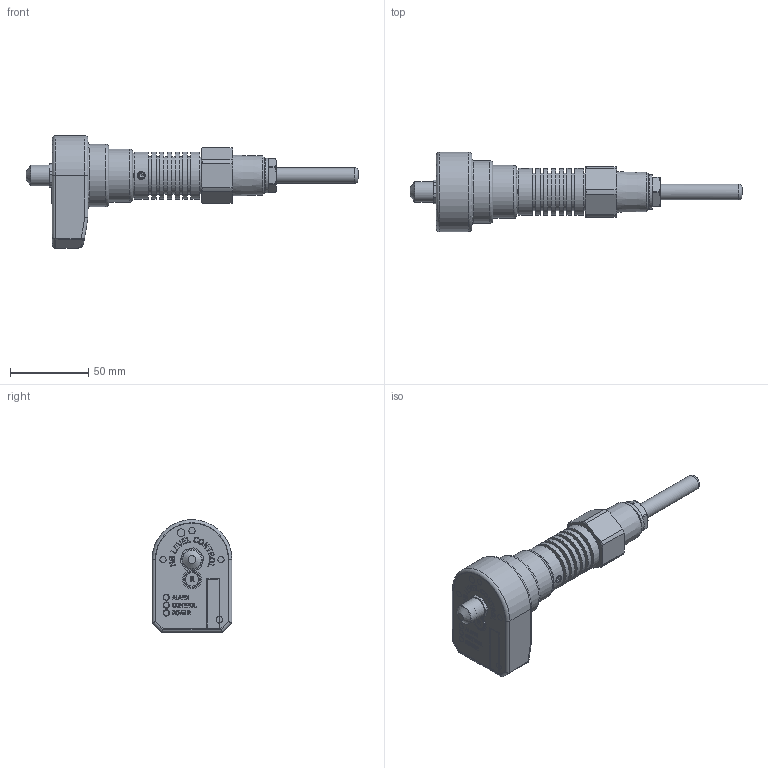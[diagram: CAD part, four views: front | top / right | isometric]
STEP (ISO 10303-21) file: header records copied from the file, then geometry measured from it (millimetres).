
FILE_DESCRIPTION((''),'2;1');
FILE_NAME('R:\Mekanisk design\HBOR\5. STEP files\HBOR.stp','2015-06-19T13:32:59',('kc'),(''),'Autodesk Inventor 2013','Autodesk Inventor 2013','');
FILE_SCHEMA(('AUTOMOTIVE_DESIGN { 1 0 10303 214 1 1 1 1 }'));
Length unit declared in the file: millimetre
Products named in the file (1): HBOR
Bounding box: 212.1 x 51 x 72 mm (x, y, z)
Volume: 110198.6 mm3; surface area: 67914.4 mm2
Topology: 1 solids, 16 shells, 1233 faces, 3149 edges, 2055 vertices
Faces by surface type: plane 707, cylinder 221, bspline 172, cone 71, torus 55, sphere 7
Full cylindrical faces by diameter (mm): 0.5 x2, 1.003 x1, 1.8 x2, 2.459 x2, 2.729 x1, 2.8 x1, 2.83 x1, 3 x1, 3.2 x1, 3.6 x3, 3.8 x1, 4 x18, 4.2 x1, 4.7 x1, 5 x3, 6 x2, 6.1 x1, 6.3 x1, 8 x1, 8.4 x1, 8.5 x3, 8.6 x1, 9.7 x1, 10 x3, 10.1 x1, 10.4 x1, 10.5 x3, 10.55 x2, 11.5 x1, 11.8 x2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
Entity records: 43407 total; most frequent: CARTESIAN_POINT 14386, ORIENTED_EDGE 5770, DIRECTION 5142, EDGE_CURVE 2885, VERTEX_POINT 1958, AXIS2_PLACEMENT_3D 1723, VECTOR 1696, LINE 1696
